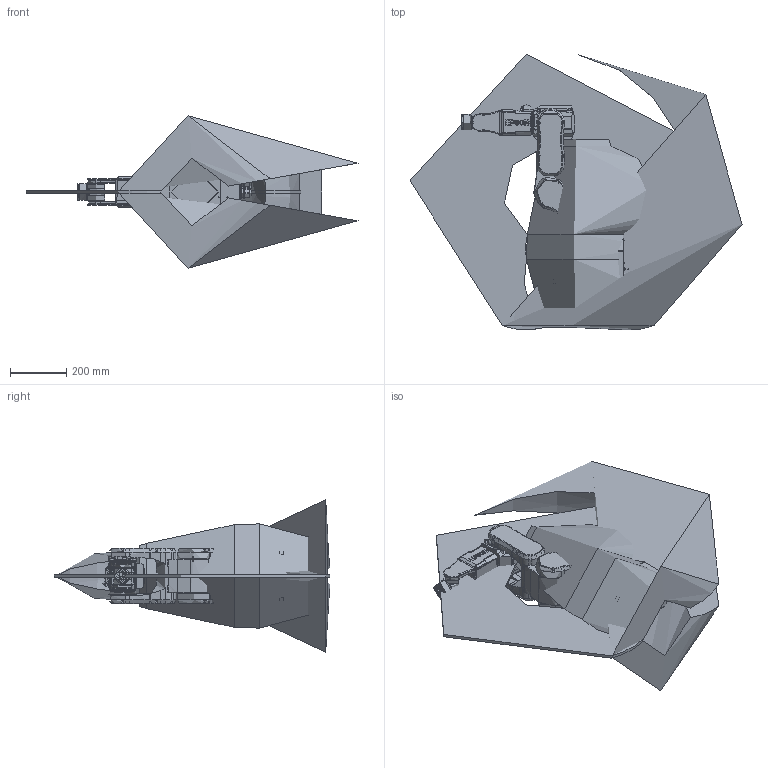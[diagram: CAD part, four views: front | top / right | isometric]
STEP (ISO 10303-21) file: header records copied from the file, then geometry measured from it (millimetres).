
FILE_DESCRIPTION( ( 'STEP AP214' ), '1' );
FILE_NAME( 'C:/Users/9607552/Desktop/C4-B601S.stp', '2024-01-23T07:09:09', ( '' ), ( '' ), ' ', 'PARTsolutions', ' ' );
FILE_SCHEMA( ( 'AUTOMOTIVE_DESIGN { 1 0 10303 214 1 1 1 1 }' ) );
Length unit declared in the file: millimetre
Products named in the file (10): C4-B601SW; _Base C4SR; _J1 C4CB; _J2 C4 (1); _J3 C4 (1); _J4 C4 (1); _J5 C4; _J6 C4; _WS C4-B601S (c4-b-03)_1; _WS C4-B601S (c4-b-03)_2
Assembly tree (9 placements, depth 2):
  C4-B601SW
    _Base C4SR
    _J1 C4CB
    _J2 C4 (1)
    _J3 C4 (1)
    _J4 C4 (1)
    _J5 C4
    _J6 C4
    _WS C4-B601S (c4-b-03)_1
    _WS C4-B601S (c4-b-03)_2
Bounding box: 1176.69 x 976.96 x 539.96 mm (x, y, z)
Topology: 8 solids, 11 shells, 2182 faces, 5490 edges, 3484 vertices
Faces by surface type: plane 1039, cylinder 666, cone 289, torus 130, bspline 51, sphere 7
Full cylindrical faces by diameter (mm): 1 x18, 2 x1, 2.459 x2, 3.242 x16, 3.3 x5, 4 x4, 4.5 x3, 5 x1, 5.5 x13, 5.6 x5, 5.8 x7, 6 x5, 6.647 x6, 6.8 x1, 6.86 x1, 6.9 x37, 7 x12, 7.647 x2, 8 x16, 8.376 x1, 10 x1, 11 x4, 12 x7, 13 x10, 14 x9, 17 x1, 22 x1, 30 x4, 31 x1, 34 x2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
Entity records: 84067 total; most frequent: CARTESIAN_POINT 16401, DIRECTION 10505, ORIENTED_EDGE 9860, EDGE_CURVE 4930, AXIS2_PLACEMENT_3D 4109, VERTEX_POINT 3394, EDGE_LOOP 2789, FACE_OUTER_BOUND 2425
